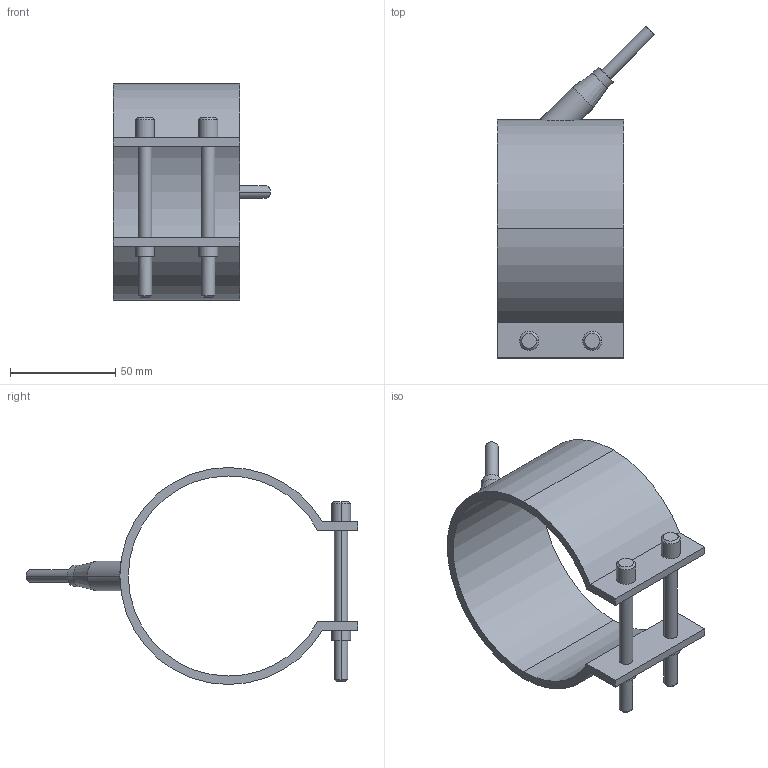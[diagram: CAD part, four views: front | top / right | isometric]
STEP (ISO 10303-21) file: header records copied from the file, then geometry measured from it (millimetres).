
FILE_DESCRIPTION(('CATIA V5 STEP Exchange'),'2;1');
FILE_NAME('C:\Users\Utente\Desktop\IO LAVORO\3D X SITO CF\X SITO\PLASTICA\RF1\29095060.stp','2021-03-29T14:16:38+00:00',('none'),('none'),'CATIA Version 5 Release 20 GA (IN-10)','CATIA V5 STEP AP203','none');
FILE_SCHEMA(('CONFIG_CONTROL_DESIGN'));
Length unit declared in the file: millimetre
Products named in the file (1): 29095060
Bounding box: 74.55 x 157.55 x 103 mm (x, y, z)
Volume: 81989.5 mm3; surface area: 43373.3 mm2
Topology: 1 solids, 1 shells, 54 faces, 123 edges, 79 vertices
Faces by surface type: cylinder 28, plane 16, cone 10
Entity records: 1728 total; most frequent: CARTESIAN_POINT 496, ORIENTED_EDGE 246, DIRECTION 213, EDGE_CURVE 123, AXIS2_PLACEMENT_3D 106, VERTEX_POINT 79, EDGE_LOOP 66, VECTOR 56
